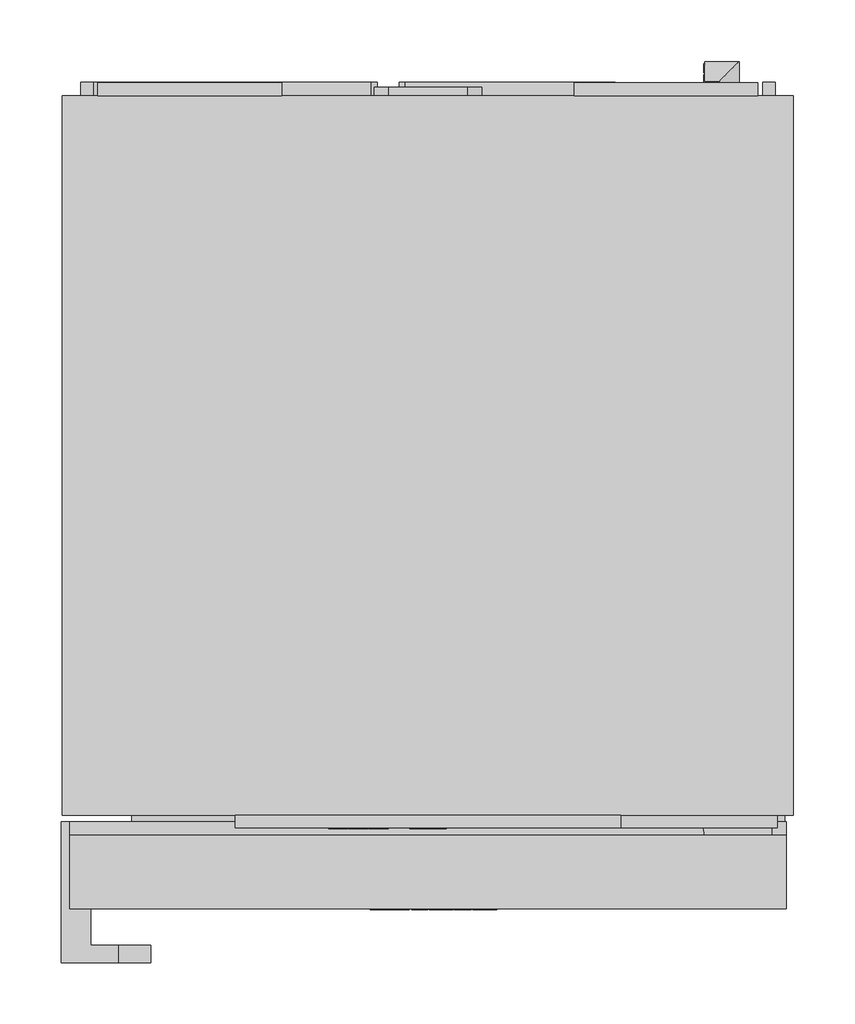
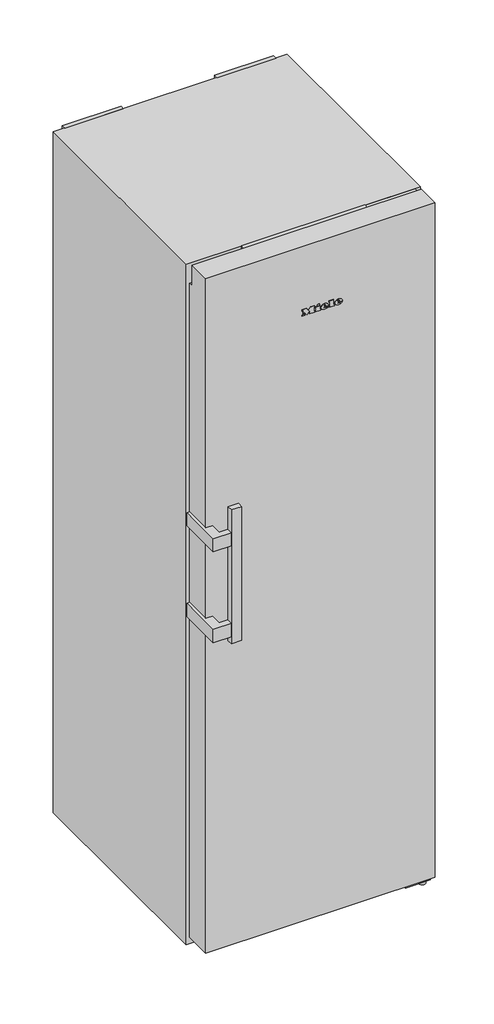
# Not in any storey: 1 proxy.
"""IFC4 building model written with IfcOpenShell, lengths in millimetres."""

from ifc_helpers import new_model, si_unit, origin, place, context, project, spatial, transform, mapped, element, save
from components import specialty_equipment_c782e8de

model = new_model("IFC4")

# Units and contexts
model_context = context("Model", 3, world=origin())
ifc_project = project(units=[si_unit("LENGTHUNIT", "METRE", prefix="MILLI")], contexts=[model_context])

# Site, building
site = spatial("IfcSite", under=ifc_project)
building = spatial("IfcBuilding", under=site)

# Proxy
placement = place(None, origin())
specialty_equipment_shape = specialty_equipment_c782e8de(model_context)
element("IfcBuildingElementProxy", 1, Name="12113000_J_KS4783ED_EDTCS : 36478350_J_12113000_KS4783ED_EDTCS", ObjectType="12113000_J_KS4783ED_EDTCS : 36478350_J_12113000_KS4783ED_EDTCS", at=placement, inside=building, context=model_context, shape_type="MappedRepresentation", body=[
    mapped(specialty_equipment_shape, transform((0.0, 0.0, 0.0), x_axis=(1.0, 0.0, 0.0), y_axis=(0.0, 1.0, 0.0), z_axis=(0.0, 0.0, 1.0))),
])

save(model, "model.ifc")
